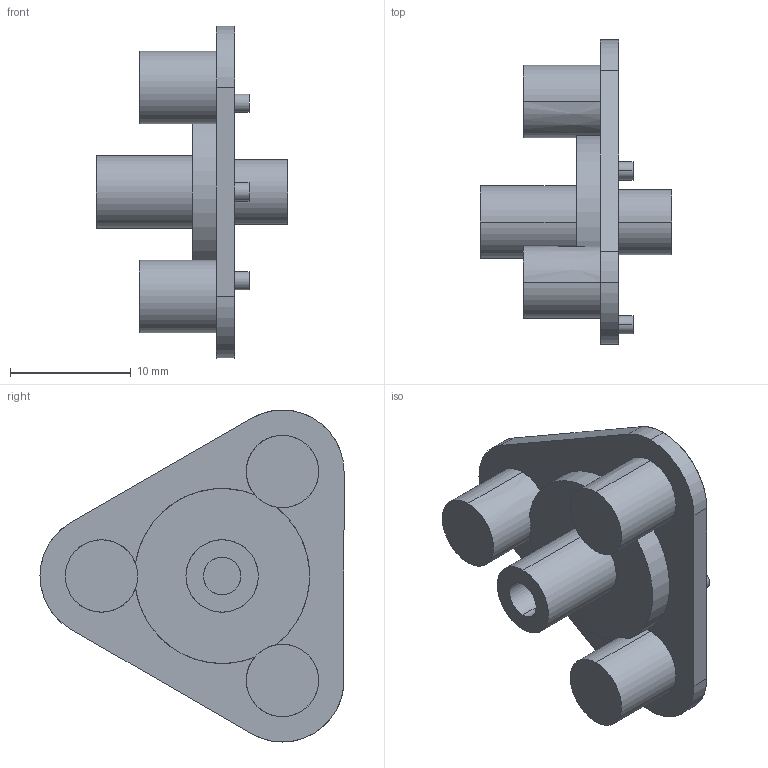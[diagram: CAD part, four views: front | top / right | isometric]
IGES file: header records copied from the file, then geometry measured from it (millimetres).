
Start section: SolidWorks IGES file using analytic representation for surfaces
Global section: file name: C:\Users\AndreBernot\Downloads\K-RACER-L_3D_SW\K-RACER-L_3D_SW\TAM-70145_moyeu.IGS; native system: SolidWorks 2015; preprocessor: SolidWorks 2015; author: AndreBernot; date: 170922.151638; units: millimetre
Bounding box: 15.85 x 25.2 x 27.52 mm (x, y, z)
Surface area: 1950.8 mm2 (no closed solid volume)
Topology: 0 solids, 0 shells, 53 faces, 1040 edges, 1040 vertices
Faces by surface type: revolution 34, bspline 19
